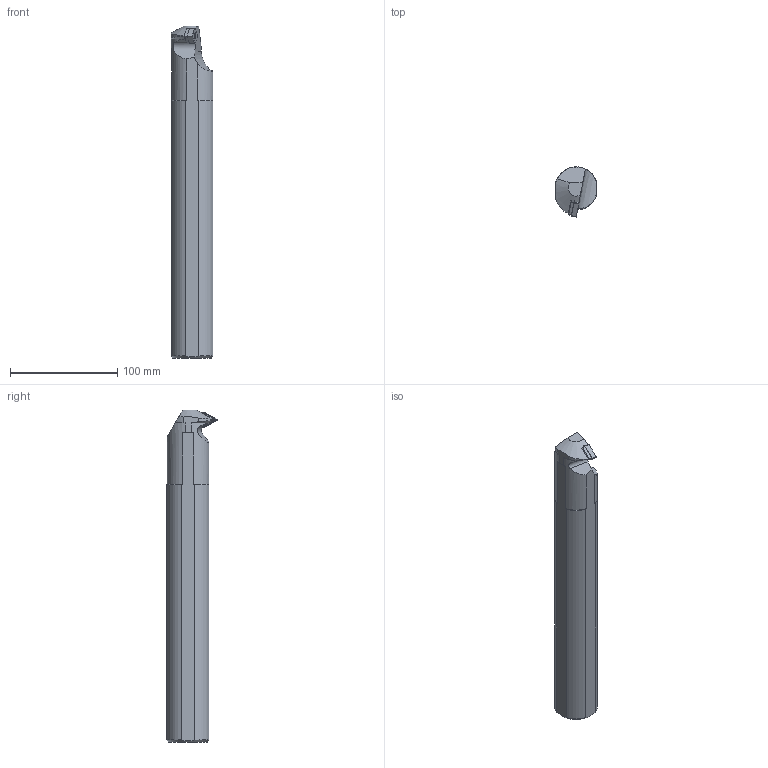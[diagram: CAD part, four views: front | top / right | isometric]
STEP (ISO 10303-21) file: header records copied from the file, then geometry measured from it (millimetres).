
FILE_DESCRIPTION(/* description */ (''),/* implementation_level */ '2;1');
FILE_NAME(/* name */ 'A40T-PDSNR-15-3N-HAAS_210825.stp',/* time_stamp */ '2021-09-30T17:08:13+09:00',/* author */ (''),/* organization */ (''),/* preprocessor_version */ 'ST-DEVELOPER v15',/* originating_system */ 'SIEMENS PLM Software NX 8.5',/* authorisation */ '');
FILE_SCHEMA (('AP203_CONFIGURATION_CONTROLLED_3D_DESIGN_OF_MECHANICAL_PARTS_AND_ASSEMBLIES_MIM_LF { 1 0 10303 403 2 1 2}'));
Length unit declared in the file: millimetre
Products named in the file (1): userF2984F2A8mdi
Bounding box: 38.5 x 46.93 x 309.2 mm (x, y, z)
Volume: 359260.1 mm3; surface area: 40735.9 mm2
Topology: 3 solids, 3 shells, 63 faces, 159 edges, 102 vertices
Faces by surface type: plane 26, cylinder 19, cone 16, bspline 1, extrusion 1
Full cylindrical faces by diameter (mm): 5.16 x1, 6.9 x1
Entity records: 2063 total; most frequent: CARTESIAN_POINT 511, ORIENTED_EDGE 300, DIRECTION 294, EDGE_CURVE 150, AXIS2_PLACEMENT_3D 111, VERTEX_POINT 100, EDGE_LOOP 74, VECTOR 72
